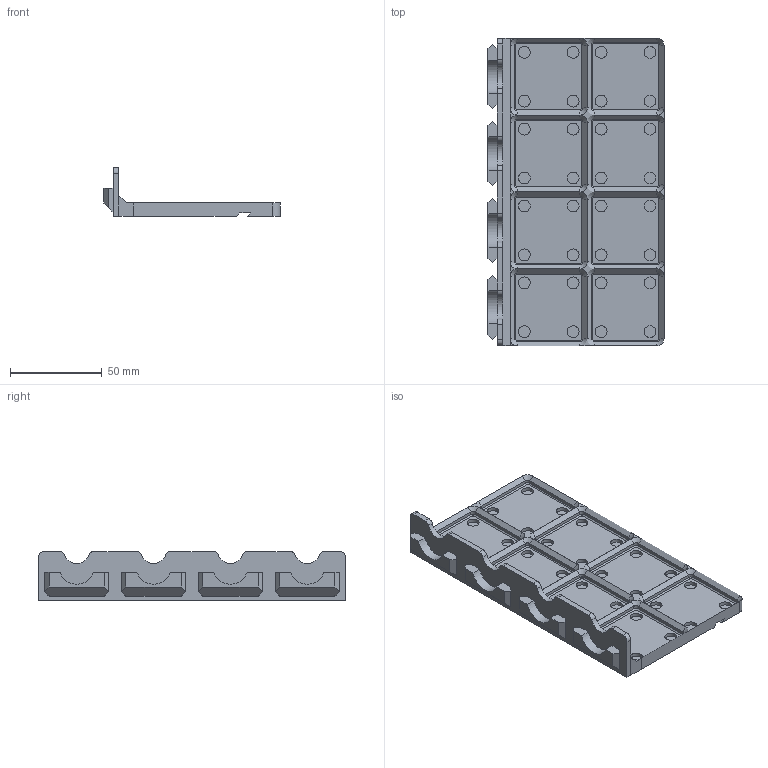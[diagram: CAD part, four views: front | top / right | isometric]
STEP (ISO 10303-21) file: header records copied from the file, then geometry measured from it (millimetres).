
FILE_DESCRIPTION(/* description */ ('','CAx-IF Rec.Pracs.---Representation and Presentation of Product Manufacturing Information (PMI)---4.0---2014-10-13'),/* implementation_level */ '2;1');
FILE_NAME(/* name */ 'Goews Quad Hanger Gridfinity with Magnets 2x4 Base.step',/* time_stamp */ '2024-12-14T22:27:27-05:00',/* author */ (''),/* organization */ (''),/* preprocessor_version */ 'ST-DEVELOPER v20',/* originating_system */ 'Autodesk Translation Framework v13.20.0.188',/* authorisation */ '');
FILE_SCHEMA (('AP242_MANAGED_MODEL_BASED_3D_ENGINEERING_MIM_LF { 1 0 10303 442 1 1 4 }'));
Length unit declared in the file: millimetre
Products named in the file (2): Goews Quad Hanger Gridfinity  with Magnets 2x4 Base; Component2
Assembly tree (1 placements, depth 2):
  Goews Quad Hanger Gridfinity  with Magnets 2x4 Base
    Component2
Bounding box: 96.15 x 168 x 26.72 mm (x, y, z)
Volume: 69229.1 mm3; surface area: 47594.2 mm2
Topology: 1 solids, 1 shells, 395 faces, 841 edges, 484 vertices
Faces by surface type: plane 217, cylinder 114, cone 64
Full cylindrical faces by diameter (mm): 6.5 x32
Entity records: 10410 total; most frequent: DIRECTION 1899, CARTESIAN_POINT 1723, ORIENTED_EDGE 1682, EDGE_CURVE 841, AXIS2_PLACEMENT_3D 660, LINE 579, VECTOR 579, VERTEX_POINT 484
